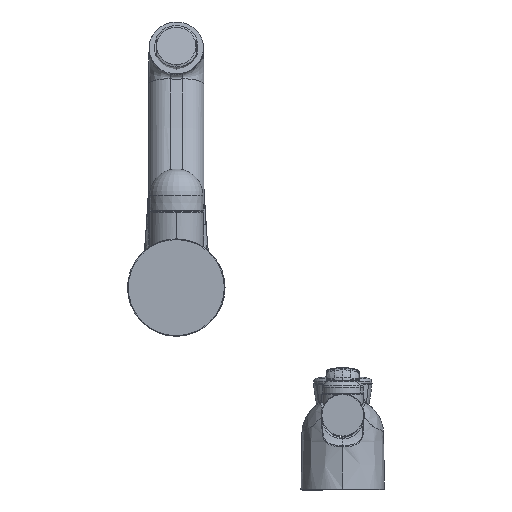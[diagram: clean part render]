
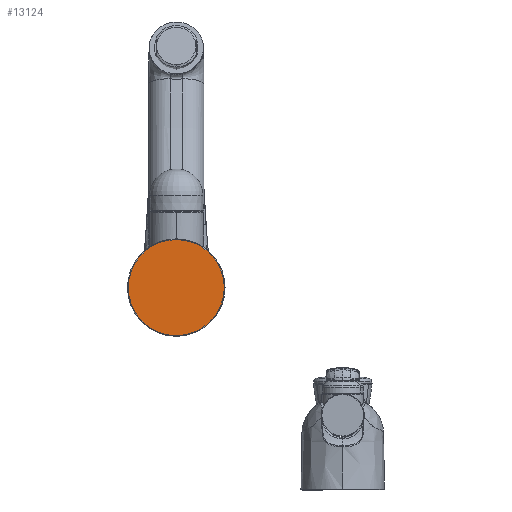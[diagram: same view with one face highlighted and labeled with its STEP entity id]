
A CAD part, front view. The second image highlights one B-rep face of the part: STEP entity #13124.
In plain terms, the highlighted planar face has unit normal (0, -1, 0).
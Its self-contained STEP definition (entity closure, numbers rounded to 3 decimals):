
#1849 = CARTESIAN_POINT ( 'NONE',  ( 54.022, 298.769, 602.902 ) ) ;
#3086 = EDGE_CURVE ( 'NONE', #29519, #37946, #21482, .T. ) ;
#5005 = ORIENTED_EDGE ( 'NONE', *, *, #14134, .T. ) ;
#9957 = DIRECTION ( 'NONE',  ( 0., -1., 0. ) ) ;
#10137 = DIRECTION ( 'NONE',  ( -1., 0., 0. ) ) ;
#12201 = DIRECTION ( 'NONE',  ( 0., 0., 1. ) ) ;
#13124 = ADVANCED_FACE ( 'NONE', ( #18174 ), #28711, .T. ) ;
#13247 = DIRECTION ( 'NONE',  ( -1., 0., 0. ) ) ;
#14134 = EDGE_CURVE ( 'NONE', #37946, #29519, #27783, .T. ) ;
#18174 = FACE_OUTER_BOUND ( 'NONE', #39785, .T. ) ;
#20970 = DIRECTION ( 'NONE',  ( 0., -1., 0. ) ) ;
#21482 = CIRCLE ( 'NONE', #49488, 26.461 ) ;
#22949 = ORIENTED_EDGE ( 'NONE', *, *, #3086, .T. ) ;
#27783 = CIRCLE ( 'NONE', #50389, 26.461 ) ;
#28711 = PLANE ( 'NONE',  #37182 ) ;
#29519 = VERTEX_POINT ( 'NONE', #1849 ) ;
#29807 = CARTESIAN_POINT ( 'NONE',  ( 80.483, 298.769, 602.902 ) ) ;
#35277 = CARTESIAN_POINT ( 'NONE',  ( 80.483, 298.769, 602.902 ) ) ;
#37182 = AXIS2_PLACEMENT_3D ( 'NONE', #37329, #53150, #12201 ) ;
#37329 = CARTESIAN_POINT ( 'NONE',  ( 56.483, 298.769, 602.902 ) ) ;
#37946 = VERTEX_POINT ( 'NONE', #48753 ) ;
#39785 = EDGE_LOOP ( 'NONE', ( #22949, #5005 ) ) ;
#48753 = CARTESIAN_POINT ( 'NONE',  ( 106.944, 298.769, 602.902 ) ) ;
#49488 = AXIS2_PLACEMENT_3D ( 'NONE', #35277, #9957, #10137 ) ;
#50389 = AXIS2_PLACEMENT_3D ( 'NONE', #29807, #20970, #13247 ) ;
#53150 = DIRECTION ( 'NONE',  ( 0., -1., 0. ) ) ;
